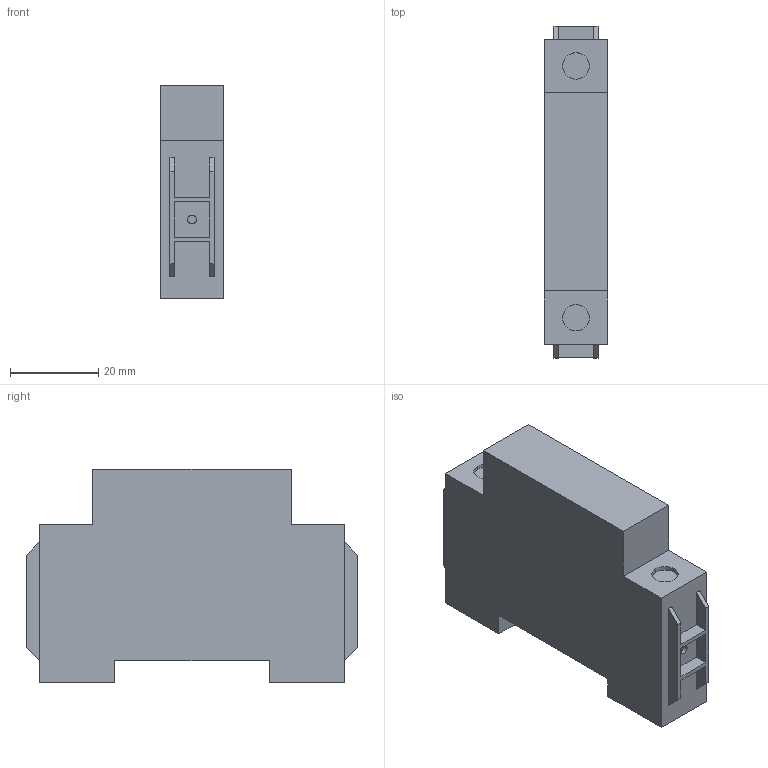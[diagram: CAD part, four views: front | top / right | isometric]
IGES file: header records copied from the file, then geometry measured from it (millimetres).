
Start section:  PTC IGES file: C:\TPO v2\SharedFS\Outgoing\pole_add_022212_ew.igs
Global section: file name: C:\TPO v2\SharedFS\Outgoing\pole_add_022212_ew.igs; native system:  by Parametric Technology Corporation; preprocessor: 2013430; organization: Unknown; date: 20170511.153602; units: millimetre
Bounding box: 14.5 x 75.4 x 48.5 mm (x, y, z)
Volume: 42166.7 mm3; surface area: 10140.1 mm2
Topology: 1 solids, 1 shells, 62 faces, 156 edges, 104 vertices
Faces by surface type: bspline 54, revolution 8
